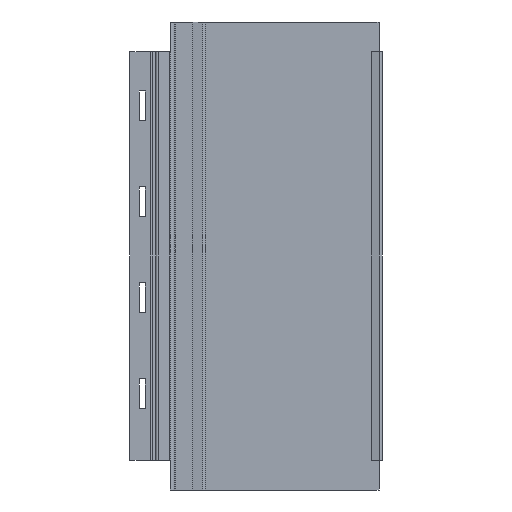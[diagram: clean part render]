
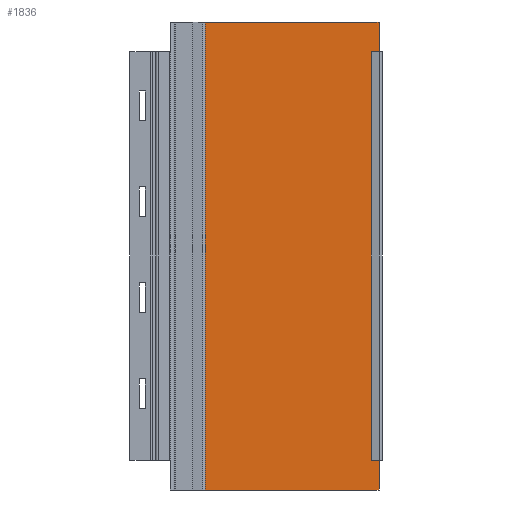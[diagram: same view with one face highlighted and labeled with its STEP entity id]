
A CAD part, front view. The second image highlights one B-rep face of the part: STEP entity #1836.
In plain terms, the highlighted planar face has unit normal (0, -1, 0).
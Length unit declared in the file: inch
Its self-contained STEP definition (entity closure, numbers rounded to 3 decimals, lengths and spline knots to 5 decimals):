
#7 = VECTOR ( 'NONE', #1498, 39.37008 ) ;
#71 = CARTESIAN_POINT ( 'NONE',  ( -2.17396, 0., 11.81102 ) ) ;
#78 = EDGE_CURVE ( 'NONE', #1008, #380, #546, .T. ) ;
#253 = VERTEX_POINT ( 'NONE', #1119 ) ;
#263 = VERTEX_POINT ( 'NONE', #1877 ) ;
#305 = ORIENTED_EDGE ( 'NONE', *, *, #1953, .F. ) ;
#309 = CARTESIAN_POINT ( 'NONE',  ( 2.2158, 0., 11.81102 ) ) ;
#332 = ORIENTED_EDGE ( 'NONE', *, *, #2291, .T. ) ;
#372 = VECTOR ( 'NONE', #1464, 39.37008 ) ;
#380 = VERTEX_POINT ( 'NONE', #1452 ) ;
#436 = CARTESIAN_POINT ( 'NONE',  ( -2.17396, 0., 0. ) ) ;
#546 = LINE ( 'NONE', #980, #2008 ) ;
#557 = CARTESIAN_POINT ( 'NONE',  ( 2.2158, 0., 11.81102 ) ) ;
#688 = LINE ( 'NONE', #1798, #7 ) ;
#696 = DIRECTION ( 'NONE',  ( -1., 0., 0. ) ) ;
#751 = EDGE_LOOP ( 'NONE', ( #2146, #1167, #305, #332 ) ) ;
#870 = VECTOR ( 'NONE', #1554, 39.37008 ) ;
#891 = EDGE_CURVE ( 'NONE', #253, #380, #2111, .T. ) ;
#980 = CARTESIAN_POINT ( 'NONE',  ( 2.2158, 0., 0. ) ) ;
#1008 = VERTEX_POINT ( 'NONE', #436 ) ;
#1119 = CARTESIAN_POINT ( 'NONE',  ( 2.2158, 0., 11.81102 ) ) ;
#1167 = ORIENTED_EDGE ( 'NONE', *, *, #891, .F. ) ;
#1210 = PLANE ( 'NONE',  #1528 ) ;
#1253 = LINE ( 'NONE', #71, #372 ) ;
#1452 = CARTESIAN_POINT ( 'NONE',  ( 2.2158, 0., 0. ) ) ;
#1464 = DIRECTION ( 'NONE',  ( 0., 0., -1. ) ) ;
#1492 = FACE_OUTER_BOUND ( 'NONE', #751, .T. ) ;
#1498 = DIRECTION ( 'NONE',  ( 1., 0., 0. ) ) ;
#1528 = AXIS2_PLACEMENT_3D ( 'NONE', #557, #1733, #696 ) ;
#1554 = DIRECTION ( 'NONE',  ( 0., 0., -1. ) ) ;
#1733 = DIRECTION ( 'NONE',  ( 0., 1., 0. ) ) ;
#1798 = CARTESIAN_POINT ( 'NONE',  ( 2.2158, 0., 11.81102 ) ) ;
#1836 = ADVANCED_FACE ( 'NONE', ( #1492 ), #1210, .F. ) ;
#1877 = CARTESIAN_POINT ( 'NONE',  ( -2.17396, 0., 11.81102 ) ) ;
#1953 = EDGE_CURVE ( 'NONE', #263, #253, #688, .T. ) ;
#2008 = VECTOR ( 'NONE', #2247, 39.37008 ) ;
#2111 = LINE ( 'NONE', #309, #870 ) ;
#2146 = ORIENTED_EDGE ( 'NONE', *, *, #78, .T. ) ;
#2247 = DIRECTION ( 'NONE',  ( 1., 0., 0. ) ) ;
#2291 = EDGE_CURVE ( 'NONE', #263, #1008, #1253, .T. ) ;
